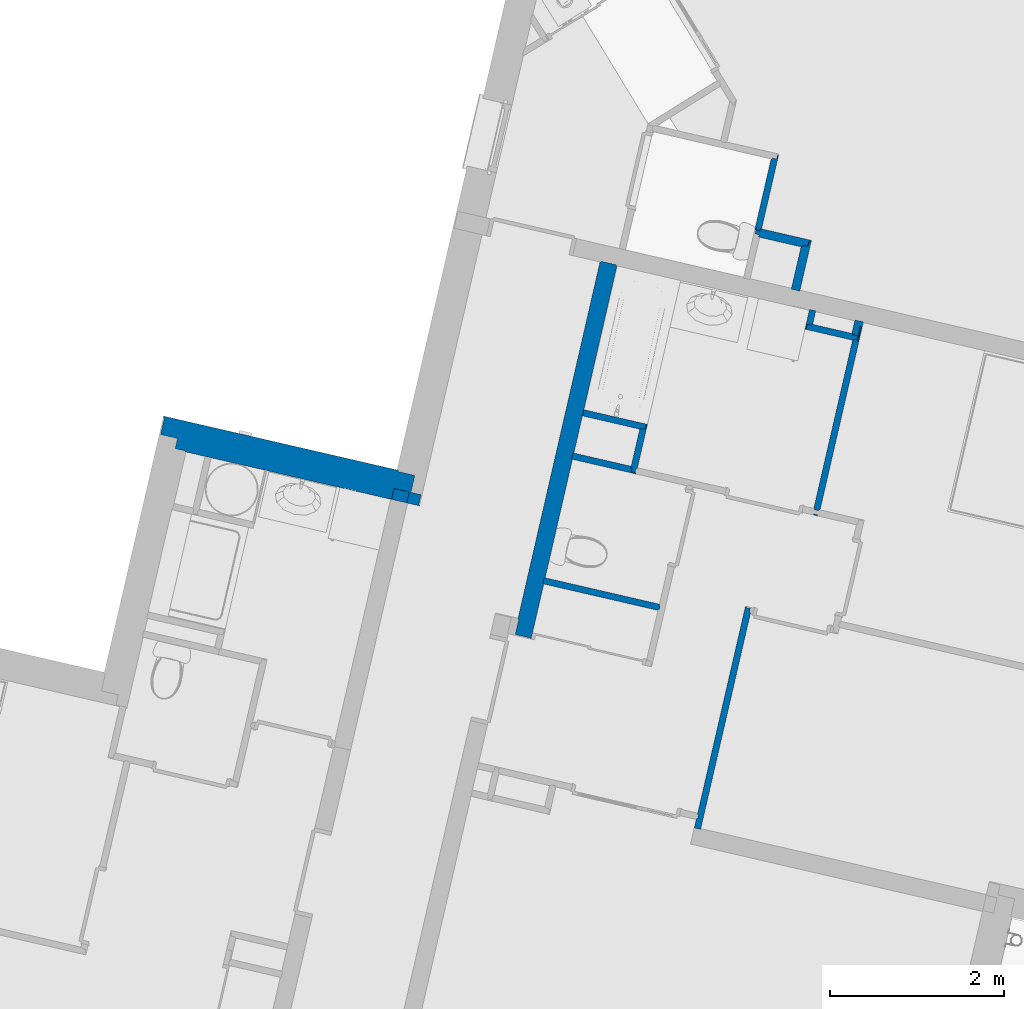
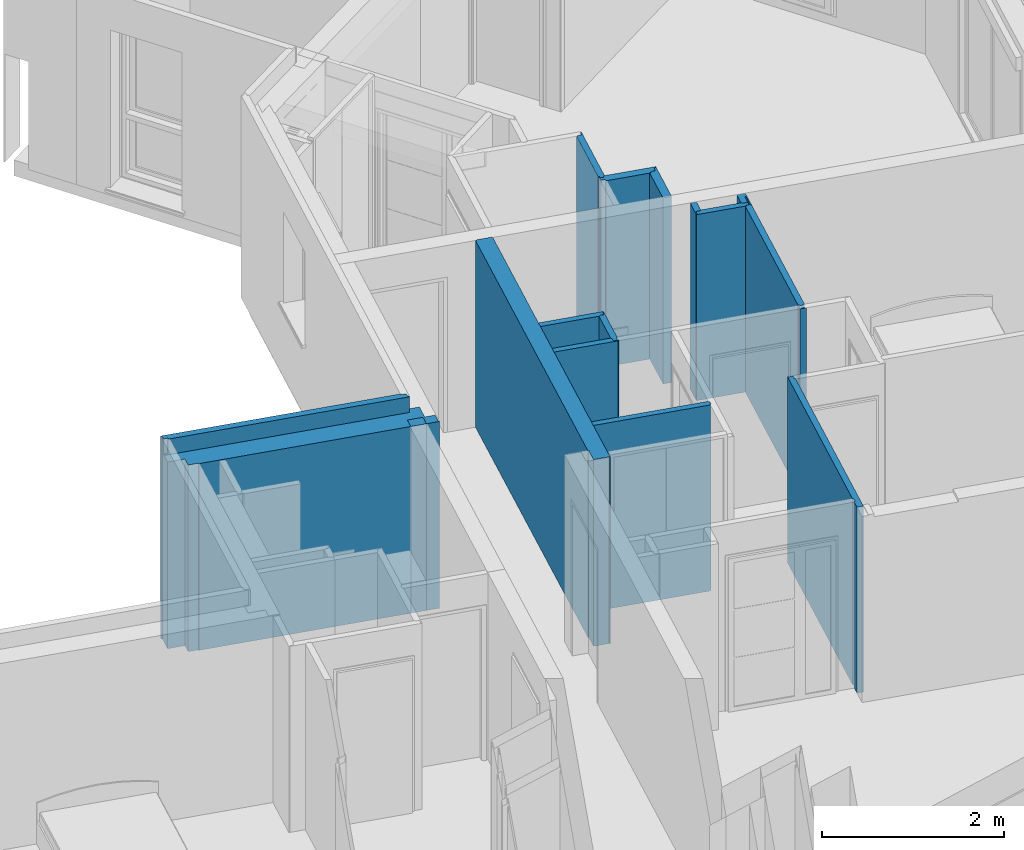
# One storey, part 53 of 90: 15 walls.
"""IFC2X3 building model written with IfcOpenShell, lengths in metres."""

from ifc_helpers import new_model, entity, si_unit, converted_unit, derived_unit, money_unit, direction, frame, origin_with_axes, place, context, subcontext, project, spatial, faceted_brep, material, material_list, type_object, element, save


model = new_model("IFC2X3")

# Units and contexts
model_context = context("Model", 3, precision=1e-05, world=origin_with_axes(), true_north=direction((0.0, 1.0)))
body_context = subcontext(model_context, "Body", "Model", "MODEL_VIEW")
ifc_project = project(units=[si_unit("LENGTHUNIT", "METRE"), si_unit("AREAUNIT", "SQUARE_METRE"), si_unit("VOLUMEUNIT", "CUBIC_METRE"), converted_unit("PLANEANGLEUNIT", "DEGREE", entity("IfcPlaneAngleMeasure", 0.0174532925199), si_unit("PLANEANGLEUNIT", "RADIAN"), dimensions=[0, 0, 0, 0, 0, 0, 0]), si_unit("SOLIDANGLEUNIT", "STERADIAN"), money_unit("EUR"), converted_unit("TIMEUNIT", "Year", entity("IfcTimeMeasure", 31556926.0), si_unit("TIMEUNIT", "SECOND"), dimensions=[0, 0, 1, 0, 0, 0, 0]), si_unit("MASSUNIT", "GRAM", prefix="KILO"), si_unit("THERMODYNAMICTEMPERATUREUNIT", "DEGREE_CELSIUS"), si_unit("LUMINOUSINTENSITYUNIT", "LUMEN"), si_unit("ENERGYUNIT", "JOULE", prefix="MEGA"), derived_unit("THERMALCONDUCTANCEUNIT", [(si_unit("POWERUNIT", "WATT"), 1), (si_unit("LENGTHUNIT", "METRE"), -1), (si_unit("THERMODYNAMICTEMPERATUREUNIT", "KELVIN"), -1)]), derived_unit("SPECIFICHEATCAPACITYUNIT", [(si_unit("ENERGYUNIT", "JOULE"), 1), (si_unit("MASSUNIT", "GRAM", prefix="KILO"), -1), (si_unit("THERMODYNAMICTEMPERATUREUNIT", "KELVIN"), -1)]), derived_unit("MASSDENSITYUNIT", [(si_unit("MASSUNIT", "GRAM", prefix="KILO"), 1), (si_unit("VOLUMEUNIT", "CUBIC_METRE"), -1)])], contexts=[model_context])

# Site, building, storey
site_placement = place(None, origin_with_axes())
site = spatial("IfcSite", under=ifc_project, at=site_placement, Name="Site", CompositionType="ELEMENT")
building_placement = place(site_placement, origin_with_axes())
building = spatial("IfcBuilding", under=site, at=building_placement, Name="Bâtiment", CompositionType="ELEMENT")
storey_placement = place(building_placement, frame((0.0, 0.0, 2.72), z_axis=(0.0, 0.0, 1.0), x_axis=(1.0, 0.0, 0.0)))
storey = spatial("IfcBuildingStorey", under=building, at=storey_placement, Name="R+1", CompositionType="ELEMENT", Elevation=2.72)

# Walls
ifc_material_1 = material(Name="Finition int - Plaque de plâtre")
ifc_material_2 = material(Name="Isolation - Polystyrène extrudé")
ifc_material_3 = material(Name="Bloc ELITHERM")
ifc_material_4 = material(Name="Isolation - Polystyrène expansé")
ifc_material_5 = material(Name="Mortier")
ifc_material_6 = material(Name="Béton cellulaire")
ifc_material_7 = material(Name="Finition ext - Crépis")
ifc_material_list_1 = material_list([ifc_material_1, ifc_material_2, ifc_material_3, ifc_material_4, ifc_material_5, ifc_material_6, ifc_material_7])
wall_type_1 = type_object("IfcWallType", Name="Mur ALKERN + planelle 21 345 x 2720", PredefinedType="USERDEFINED")
wall_1_placement = place(storey_placement, frame((-8.19769074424, 11.8040918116, 0.0), z_axis=(0.0, 0.0, 1.0), x_axis=(-0.974387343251, 0.224876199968, 0.0)))
element("IfcWall", 1, at=wall_1_placement, inside=storey, type_object=wall_type_1, material=ifc_material_list_1, Name="Mue bloc ALKERN isolé", ObjectType="SOLIDWALL", context=body_context, shape_type="Brep", body=[
    faceted_brep([(-0.344999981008, 0.335000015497, 0.0), (2.42531035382, 0.335000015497, 0.0), (2.42531035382, 0.335000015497, 2.51), (-0.344999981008, 0.335000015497, 2.51000000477), (-0.344999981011, 0.34499998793, 0.0), (2.42531035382, 0.34499998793, 0.0), (2.42531035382, 0.34499998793, 2.51), (-0.344999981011, 0.34499998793, 2.51000000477)], [[[0, 1, 2, 3]], [[4, 5, 1, 0]], [[5, 6, 2, 1]], [[3, 2, 6, 7]], [[7, 4, 0, 3]], [[7, 6, 5, 4]]]),
    faceted_brep([(2.54531037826, 0.335000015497, 2.50999999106), (-0.335000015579, 0.335000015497, 2.51), (-0.33500001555, 0.215000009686, 2.51), (2.54531037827, 0.215000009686, 2.50999999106), (2.54531037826, 0.335000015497, 0.0), (-0.335000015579, 0.335000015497, 0.0), (-0.33500001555, 0.215000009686, 0.0), (2.54531037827, 0.215000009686, 0.0)], [[[0, 1, 2, 3]], [[4, 5, 1, 0]], [[5, 6, 2, 1]], [[3, 2, 6, 7]], [[4, 0, 3, 7]], [[7, 6, 5, 4]]]),
    faceted_brep([(-0.215000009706, 0.0829999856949, 2.51), (-0.215000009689, 0.015, 2.51), (2.74531038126, 0.015, 2.50999999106), (2.74531038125, 0.0829999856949, 2.50999999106), (-0.215000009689, 0.015, 0.0), (-0.215000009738, 0.214999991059, 2.51), (-0.215000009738, 0.214999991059, 0.0), (2.74531038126, 0.015, 0.0), (2.74531038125, 0.214999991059, 0.0), (2.74531038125, 0.214999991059, 2.50999999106)], [[[0, 1, 2, 3]], [[4, 1, 0, 5, 6]], [[1, 4, 7, 2]], [[3, 2, 7, 8, 9]], [[5, 0, 3, 9]], [[6, 5, 9, 8]], [[4, 6, 8, 7]]]),
    faceted_brep([(-0.0830000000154, 0.0630000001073, 2.51999998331), (2.69731037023, 0.0630000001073, 2.51999999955), (2.69731037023, 0.0630000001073, 2.72), (-0.0830000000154, 0.0630000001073, 2.72), (-0.0830000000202, 0.083000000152, 2.51999998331), (2.69731037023, 0.083000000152, 2.51999999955), (2.69731037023, 0.083000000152, 2.72), (-0.0830000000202, 0.083000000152, 2.72)], [[[0, 1, 2, 3]], [[4, 5, 1, 0]], [[5, 6, 2, 1]], [[3, 2, 6, 7]], [[7, 4, 0, 3]], [[7, 6, 5, 4]]]),
    faceted_brep([(2.74531038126, 0.015, 2.50999999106), (2.74531038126, 0.015, 2.51999999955), (-0.0830000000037, 0.015, 2.51999998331), (-0.0830000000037, 0.015, 2.51000000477), (2.74531038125, 0.083, 2.51999999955), (2.74531038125, 0.083, 2.50999999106), (-0.0830000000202, 0.083, 2.51999998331), (-0.0830000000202, 0.083, 2.51000000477)], [[[0, 1, 2, 3]], [[4, 1, 0, 5]], [[1, 4, 6, 2]], [[7, 3, 2, 6]], [[5, 0, 3, 7]], [[4, 5, 7, 6]]]),
    faceted_brep([(-0.0630000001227, 0.0629999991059, 2.72), (-0.0630000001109, 0.015, 2.72), (2.74531038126, 0.015, 2.72), (2.74531038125, 0.0629999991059, 2.72), (-0.0630000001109, 0.015, 2.51999999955), (-0.0630000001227, 0.0629999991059, 2.51999999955), (2.74531038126, 0.015, 2.51999999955), (2.74531038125, 0.0629999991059, 2.51999999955)], [[[0, 1, 2, 3]], [[4, 1, 0, 5]], [[1, 4, 6, 2]], [[3, 2, 6, 7]], [[5, 0, 3, 7]], [[4, 5, 7, 6]]]),
    faceted_brep([(2.76031035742, 0.0149999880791, 2.72), (-0.0150000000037, 0.0149999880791, 2.72), (-0.015, 0.0, 2.72), (2.76031035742, 0.0, 2.72), (-0.0150000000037, 0.0149999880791, 0.0), (2.76031035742, 0.0149999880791, 0.0), (-0.015, 0.0, 0.0), (2.76031035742, 0.0, 0.0)], [[[0, 1, 2, 3]], [[4, 1, 0, 5]], [[6, 2, 1, 4]], [[3, 2, 6, 7]], [[7, 5, 0, 3]], [[7, 6, 4, 5]]]),
])
ifc_material_8 = material(Name="Isolation - Laine de roche")
ifc_material_list_2 = material_list([ifc_material_1, ifc_material_8, ifc_material_1])
wall_type_2 = type_object("IfcWallType", Name="3 - Cloison 72mm Placostil 74", PredefinedType="USERDEFINED")
wall_2_placement = place(storey_placement, frame((-3.34154663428, 11.2715143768, 0.0), z_axis=(0.0, 0.0, 1.0), x_axis=(0.224876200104, 0.97438734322, 0.0)))
element("IfcWall", 2, at=wall_2_placement, inside=storey, type_object=wall_type_2, material=ifc_material_list_2, Name="Cloison Placostil 72/48", ObjectType="PARTITIONING", context=body_context, shape_type="Brep", body=[
    faceted_brep([(0.0743317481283, 0.061, 0.0), (2.06347842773, 0.061, 0.0), (2.06347842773, 0.061, 2.5), (0.0743317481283, 0.061, 2.5), (0.0743317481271, 0.074, 0.0), (2.06347842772, 0.0740000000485, 0.0), (2.06347842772, 0.0740000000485, 2.5), (0.0743317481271, 0.074, 2.5)], [[[0, 1, 2, 3]], [[4, 5, 1, 0]], [[5, 6, 2, 1]], [[3, 2, 6, 7]], [[7, 4, 0, 3]], [[7, 6, 5, 4]]]),
    faceted_brep([(0.0, 0.061, 0.0), (0.0, 0.074, 0.0), (0.000331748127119, 0.074, 0.0), (0.000331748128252, 0.061, 0.0), (0.0, 0.061, 2.5), (0.0, 0.074, 2.5), (0.000331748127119, 0.074, 2.5), (0.000331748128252, 0.061, 2.5)], [[[0, 1, 2, 3]], [[4, 5, 1, 0]], [[1, 5, 6, 2]], [[7, 3, 2, 6]], [[4, 0, 3, 7]], [[5, 4, 7, 6]]]),
    faceted_brep([(2.23747842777, 0.0260000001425, 0.0), (2.12447842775, 0.0260000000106, 0.0), (2.07647842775, 0.0260000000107, 0.0), (2.07647842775, 0.0260000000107, 2.5), (2.12447842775, 0.0260000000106, 2.5), (2.23747842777, 0.0260000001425, 2.5), (2.07647842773, 0.061, 0.0), (2.23747842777, 0.013, 0.0), (0.0613317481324, 0.013, 0.0), (0.0613317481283, 0.061, 0.0), (2.07647842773, 0.061, 2.5), (0.0613317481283, 0.061, 2.5), (0.0613317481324, 0.013, 2.5), (2.23747842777, 0.013, 2.5)], [[[0, 1, 2, 3, 4, 5]], [[6, 2, 1, 0, 7, 8, 9]], [[6, 10, 3, 2]], [[4, 3, 10, 11, 12, 13, 5]], [[7, 0, 5, 13]], [[13, 12, 8, 7]], [[11, 9, 8, 12]], [[11, 10, 6, 9]]]),
    faceted_brep([(0.0, 0.013, 0.0), (0.0, 0.061, 0.0), (0.0133317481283, 0.061, 0.0), (0.0133317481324, 0.013, 0.0), (0.0, 0.013, 2.5), (0.0, 0.061, 2.5), (0.0133317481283, 0.061, 2.5), (0.0133317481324, 0.013, 2.5)], [[[0, 1, 2, 3]], [[4, 5, 1, 0]], [[1, 5, 6, 2]], [[7, 3, 2, 6]], [[4, 0, 3, 7]], [[5, 4, 7, 6]]]),
    faceted_brep([(0.0743317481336, 0.0, 0.0), (2.06347842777, 0.0, 0.0), (2.06347842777, 0.0, 2.5), (0.0743317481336, 0.0, 2.5), (0.0743317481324, 0.013, 0.0), (2.06347842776, 0.013, 0.0), (2.06347842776, 0.013, 2.5), (0.0743317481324, 0.013, 2.5)], [[[0, 1, 2, 3]], [[4, 5, 1, 0]], [[5, 6, 2, 1]], [[3, 2, 6, 7]], [[7, 4, 0, 3]], [[7, 6, 5, 4]]]),
    faceted_brep([(0.0, 0.0, 0.0), (0.0, 0.013, 0.0), (0.000331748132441, 0.013, 0.0), (0.000331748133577, 0.0, 0.0), (0.0, 0.0, 2.5), (0.0, 0.013, 2.5), (0.000331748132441, 0.013, 2.5), (0.000331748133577, 0.0, 2.5)], [[[0, 1, 2, 3]], [[4, 5, 1, 0]], [[1, 5, 6, 2]], [[7, 3, 2, 6]], [[4, 0, 3, 7]], [[5, 4, 7, 6]]]),
])
wall_3_placement = place(storey_placement, frame((-3.79903385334, 15.4427060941, 0.0), z_axis=(0.0, 0.0, 1.0), x_axis=(-0.224876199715, -0.97438734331, 0.0)))
element("IfcWall", 3, at=wall_3_placement, inside=storey, type_object=wall_type_2, material=ifc_material_list_2, Name="Cloison Placostil 72/48", ObjectType="PARTITIONING", context=body_context, shape_type="Brep", body=[
    faceted_brep([(0.0129999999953, -0.013, 2.5), (0.884473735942, -0.013, 2.5), (0.884473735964, 0.0, 2.5), (0.013, 0.0, 2.5), (0.0129999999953, -0.013, 0.0), (0.884473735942, -0.013, 0.0), (0.884473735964, 0.0, 0.0), (0.013, 0.0, 0.0)], [[[0, 1, 2, 3]], [[4, 5, 1, 0]], [[5, 6, 2, 1]], [[3, 2, 6, 7]], [[4, 0, 3, 7]], [[7, 6, 5, 4]]]),
    faceted_brep([(0.0609999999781, -0.061, 2.5), (0.910473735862, -0.0610000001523, 2.5), (0.910473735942, -0.013, 2.5), (0.0609999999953, -0.013, 2.5), (0.0609999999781, -0.061, 0.0), (0.910473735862, -0.0610000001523, 0.0), (0.910473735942, -0.013, 0.0), (0.0609999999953, -0.013, 0.0)], [[[0, 1, 2, 3]], [[4, 5, 1, 0]], [[5, 6, 2, 1]], [[3, 2, 6, 7]], [[4, 0, 3, 7]], [[7, 6, 5, 4]]]),
    faceted_brep([(0.0739999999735, -0.074, 2.5), (0.88447373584, -0.0740000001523, 2.5), (0.884473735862, -0.061, 2.5), (0.0739999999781, -0.061, 2.5), (0.0739999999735, -0.074, 0.0), (0.88447373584, -0.0740000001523, 0.0), (0.884473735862, -0.061, 0.0), (0.0739999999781, -0.061, 0.0)], [[[0, 1, 2, 3]], [[4, 5, 1, 0]], [[5, 6, 2, 1]], [[3, 2, 6, 7]], [[4, 0, 3, 7]], [[7, 6, 5, 4]]]),
])
wall_4_placement = place(storey_placement, frame((-4.7413895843, 7.487875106, 0.0), z_axis=(0.0, 0.0, 1.0), x_axis=(0.224876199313, 0.974387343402, 0.0)))
element("IfcWall", 4, at=wall_4_placement, inside=storey, type_object=wall_type_2, material=ifc_material_list_2, Name="Cloison Placostil 72/48", ObjectType="PARTITIONING", context=body_context, shape_type="Brep", body=[
    faceted_brep([(2.80185332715, 0.074, 0.0), (2.80185332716, 0.061, 0.0), (0.341999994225, 0.061, 0.0), (0.341999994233, 0.074, 0.0), (2.80185332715, 0.074, 2.5), (2.80185332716, 0.061, 2.5), (0.341999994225, 0.061, 2.5), (0.341999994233, 0.074, 2.5)], [[[0, 1, 2, 3]], [[1, 0, 4, 5]], [[1, 5, 6, 2]], [[7, 3, 2, 6]], [[4, 0, 3, 7]], [[5, 4, 7, 6]]]),
    faceted_brep([(0.293999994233, 0.074, 0.0), (0.293999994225, 0.061, 0.0), (0.180000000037, 0.061, 0.0), (0.180000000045, 0.074, 0.0), (0.293999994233, 0.074, 2.5), (0.293999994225, 0.061, 2.5), (0.180000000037, 0.061, 2.5), (0.180000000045, 0.074, 2.5)], [[[0, 1, 2, 3]], [[1, 0, 4, 5]], [[1, 5, 6, 2]], [[7, 3, 2, 6]], [[4, 0, 3, 7]], [[5, 4, 7, 6]]]),
    faceted_brep([(2.78885332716, 0.061, 0.0), (2.78885332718, 0.013, 0.0), (0.180000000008, 0.013, 0.0), (0.180000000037, 0.061, 0.0), (2.78885332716, 0.061, 2.5), (2.78885332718, 0.013, 2.5), (0.180000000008, 0.013, 2.5), (0.180000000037, 0.061, 2.5)], [[[0, 1, 2, 3]], [[1, 0, 4, 5]], [[1, 5, 6, 2]], [[7, 3, 2, 6]], [[4, 0, 3, 7]], [[5, 4, 7, 6]]]),
    faceted_brep([(2.74085332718, 0.013, 0.0), (2.74085332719, 0.0, 0.0), (0.18, 0.0, 0.0), (0.180000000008, 0.013, 0.0), (2.74085332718, 0.013, 2.5), (2.74085332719, 0.0, 2.5), (0.18, 0.0, 2.5), (0.180000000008, 0.013, 2.5)], [[[0, 1, 2, 3]], [[1, 0, 4, 5]], [[1, 5, 6, 2]], [[7, 3, 2, 6]], [[4, 0, 3, 7]], [[5, 4, 7, 6]]]),
])
wall_5_placement = place(storey_placement, frame((-6.70201793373, 10.53466343, 0.0), z_axis=(0.0, 0.0, 1.0), x_axis=(0.974387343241, -0.22487620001, 0.0)))
element("IfcWall", 5, at=wall_5_placement, inside=storey, type_object=wall_type_2, material=ifc_material_list_2, Name="Cloison Placostil 72/48", ObjectType="PARTITIONING", context=body_context, shape_type="Brep", body=[
    faceted_brep([(1.55033845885, 0.074, 0.0), (1.55033845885, 0.061, 0.0), (0.189954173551, 0.061, 0.0), (0.189944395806, 0.074, 0.0), (1.55033845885, 0.074, 2.5), (1.55033845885, 0.061, 2.5), (0.189954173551, 0.061, 2.5), (0.189944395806, 0.074, 2.5)], [[[0, 1, 2, 3]], [[1, 0, 4, 5]], [[1, 5, 6, 2]], [[7, 3, 2, 6]], [[4, 0, 3, 7]], [[5, 4, 7, 6]]]),
    faceted_brep([(1.56333845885, 0.061, 0.0), (1.56333845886, 0.013, 0.0), (0.189990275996, 0.013, 0.0), (0.189954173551, 0.061, 0.0), (1.56333845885, 0.061, 2.5), (1.56333845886, 0.013, 2.5), (0.189990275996, 0.013, 2.5), (0.189954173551, 0.061, 2.5)], [[[0, 1, 2, 3]], [[1, 0, 4, 5]], [[1, 5, 6, 2]], [[7, 3, 2, 6]], [[4, 0, 3, 7]], [[5, 4, 7, 6]]]),
    faceted_brep([(1.55033845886, 0.013, 0.0), (1.55033845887, 0.0, 0.0), (0.190000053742, 0.0, 0.0), (0.189990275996, 0.013, 0.0), (1.55033845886, 0.013, 2.5), (1.55033845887, 0.0, 2.5), (0.190000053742, 0.0, 2.5), (0.189990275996, 0.013, 2.5)], [[[0, 1, 2, 3]], [[1, 0, 4, 5]], [[1, 5, 6, 2]], [[7, 3, 2, 6]], [[4, 0, 3, 7]], [[5, 4, 7, 6]]]),
])
ifc_material_9 = material(Name="Finition int - Enduit plâtre")
ifc_material_10 = material(Name="Béton")
ifc_material_list_3 = material_list([ifc_material_9, ifc_material_10, ifc_material_9])
wall_type_3 = type_object("IfcWallType", Name="2 - Murs Béton 18 + Enduit 2 Faces 200", PredefinedType="USERDEFINED")
wall_6_placement = place(storey_placement, frame((-5.85898199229, 14.2001133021, 0.0), z_axis=(0.0, 0.0, 1.0), x_axis=(-0.224143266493, -0.974556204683, 0.0)))
element("IfcWall", 6, at=wall_6_placement, inside=storey, type_object=wall_type_3, material=ifc_material_list_3, Name="M_Ext-008", ObjectType="SOLIDWALL", context=body_context, shape_type="Brep", body=[
    faceted_brep([(0.000142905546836, 0.19, 2.51), (0.000150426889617, 0.2, 2.51), (0.000150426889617, 0.2, 0.0), (0.000142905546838, 0.19, 0.0), (4.41129835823, 0.2, 2.51), (4.41129083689, 0.19, 2.51), (4.41129835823, 0.2, 0.0), (3.76129817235, 0.2, 0.0), (3.76129817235, 0.2, 2.5), (3.68729815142, 0.2, 2.5), (3.68729815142, 0.2, 0.0), (2.2872977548, 0.2, 0.0), (2.2872977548, 0.2, 2.5), (2.21329773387, 0.2, 2.5), (2.21329773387, 0.2, 0.0), (2.21329021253, 0.19, 0.0), (2.21329021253, 0.19, 2.5), (2.28729023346, 0.19, 2.5), (2.28729023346, 0.19, 0.0), (3.68729063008, 0.19, 0.0), (3.68729063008, 0.19, 2.5), (3.76129065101, 0.19, 2.5), (3.76129065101, 0.19, 0.0), (4.41129083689, 0.19, 0.0)], [[[0, 1, 2, 3]], [[4, 1, 0, 5]], [[1, 4, 6, 7, 8, 9, 10, 11, 12, 13, 14, 2]], [[15, 3, 2, 14]], [[5, 0, 3, 15, 16, 17, 18, 19, 20, 21, 22, 23]], [[4, 5, 23, 6]], [[7, 6, 23, 22]], [[7, 22, 21, 8]], [[20, 9, 8, 21]], [[9, 20, 19, 10]], [[11, 10, 19, 18]], [[11, 18, 17, 12]], [[16, 13, 12, 17]], [[13, 16, 15, 14]]]),
    faceted_brep([(0.0, 0.01, 2.51), (0.0, 0.19, 2.51), (-0.00985709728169, 0.19, 2.51000000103), (-0.00999248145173, 0.01, 2.51000000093), (4.40129083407, 0.19, 2.51), (4.40115545, 0.01, 2.51), (4.40129083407, 0.19, 0.0), (-0.00985709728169, 0.19, 0.0), (-0.00999248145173, 0.01, 0.0), (4.40115545, 0.01, 0.0)], [[[0, 1, 2, 3]], [[4, 1, 0, 5]], [[1, 4, 6, 7, 2]], [[8, 3, 2, 7]], [[5, 0, 3, 8, 9]], [[4, 5, 9, 6]], [[9, 8, 7, 6]]]),
    faceted_brep([(0.0, 0.0, 2.51), (7.52137679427e-06, 0.01, 2.51), (7.52137679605e-06, 0.01, 0.0), (0.0, 0.0, 0.0), (4.22115539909, 0.01, 2.51), (4.22114787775, 0.0, 2.51), (4.22115539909, 0.01, 0.0), (4.22114787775, 0.0, 0.0)], [[[0, 1, 2, 3]], [[4, 1, 0, 5]], [[1, 4, 6, 2]], [[7, 3, 2, 6]], [[5, 0, 3, 7]], [[4, 5, 7, 6]]]),
])
wall_type_4 = type_object("IfcWallType", Name="3 - Cloison Gaine Technique 72mm 74", PredefinedType="USERDEFINED")
wall_7_placement = place(storey_placement, frame((-2.87751944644, 13.2821416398, 0.0), z_axis=(0.0, 0.0, 1.0), x_axis=(-0.974387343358, 0.224876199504, 0.0)))
element("IfcWall", 7, at=wall_7_placement, inside=storey, type_object=wall_type_4, material=ifc_material_list_2, Name="Cloison Placostil 72/48", ObjectType="PARTITIONING", context=body_context, shape_type="Brep", body=[
    faceted_brep([(0.637000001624, 0.0, 2.5), (0.061, 0.0, 2.5), (0.060999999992, -0.013, 2.5), (0.637000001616, -0.013, 2.5), (0.637000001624, 0.0, 0.0), (0.061, 0.0, 0.0), (0.060999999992, -0.013, 0.0), (0.637000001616, -0.013, 0.0)], [[[0, 1, 2, 3]], [[4, 5, 1, 0]], [[5, 6, 2, 1]], [[3, 2, 6, 7]], [[4, 0, 3, 7]], [[7, 6, 5, 4]]]),
    faceted_brep([(0.0260000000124, -0.061, 2.5), (0.62400000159, -0.061, 2.5), (0.624000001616, -0.013, 2.5), (0.0260000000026, -0.013, 2.5), (0.0260000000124, -0.061, 0.0), (0.62400000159, -0.061, 0.0), (0.624000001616, -0.013, 0.0), (0.0260000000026, -0.013, 0.0)], [[[0, 1, 2, 3]], [[4, 5, 1, 0]], [[6, 2, 1, 5]], [[3, 2, 6, 7]], [[7, 4, 0, 3]], [[7, 6, 5, 4]]]),
    faceted_brep([(0.0870000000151, -0.074, 2.5), (0.576000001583, -0.074, 2.5), (0.57600000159, -0.061, 2.5), (0.0870000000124, -0.061, 2.5), (0.0870000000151, -0.074, 0.0), (0.576000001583, -0.074, 0.0), (0.57600000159, -0.061, 0.0), (0.0870000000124, -0.061, 0.0)], [[[0, 1, 2, 3]], [[4, 5, 1, 0]], [[6, 2, 1, 5]], [[3, 2, 6, 7]], [[7, 4, 0, 3]], [[7, 6, 5, 4]]]),
])
wall_8_placement = place(storey_placement, frame((-6.37163066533, 11.9711596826, 0.0), z_axis=(0.0, 0.0, 1.0), x_axis=(0.974387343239, -0.224876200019, 0.0)))
element("IfcWall", 8, at=wall_8_placement, inside=storey, type_object=wall_type_4, material=ifc_material_list_2, Name="Cloison Placostil 72/48", ObjectType="PARTITIONING", context=body_context, shape_type="Brep", body=[
    faceted_brep([(0.877447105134, 0.074, 0.0), (0.877447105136, 0.061, 0.0), (0.189954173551, 0.061, 0.0), (0.189944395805, 0.074, 0.0), (0.877447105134, 0.074, 2.5), (0.877447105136, 0.061, 2.5), (0.189954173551, 0.061, 2.5), (0.189944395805, 0.074, 2.5)], [[[0, 1, 2, 3]], [[1, 0, 4, 5]], [[1, 5, 6, 2]], [[7, 3, 2, 6]], [[4, 0, 3, 7]], [[5, 4, 7, 6]]]),
    faceted_brep([(0.890447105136, 0.061, 0.0), (0.890447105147, 0.013, 0.0), (0.189990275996, 0.013, 0.0), (0.189954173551, 0.061, 0.0), (0.890447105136, 0.061, 2.5), (0.890447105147, 0.013, 2.5), (0.189990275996, 0.013, 2.5), (0.189954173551, 0.061, 2.5)], [[[0, 1, 2, 3]], [[1, 0, 4, 5]], [[1, 5, 6, 2]], [[7, 3, 2, 6]], [[4, 0, 3, 7]], [[5, 4, 7, 6]]]),
    faceted_brep([(0.189990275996, 0.013, 0.0), (0.938447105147, 0.013, 0.0), (0.938447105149, 0.0, 0.0), (0.190000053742, 0.0, 0.0), (0.189990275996, 0.013, 2.5), (0.938447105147, 0.013, 2.5), (0.938447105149, 0.0, 2.5), (0.190000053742, 0.0, 2.5)], [[[0, 1, 2, 3]], [[4, 5, 1, 0]], [[6, 2, 1, 5]], [[3, 2, 6, 7]], [[7, 4, 0, 3]], [[7, 6, 5, 4]]]),
])
wall_9_placement = place(storey_placement, frame((-5.32915817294, 12.2572055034, 0.0), z_axis=(0.0, 0.0, 1.0), x_axis=(-0.224876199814, -0.974387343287, 0.0)))
element("IfcWall", 9, at=wall_9_placement, inside=storey, type_object=wall_type_4, material=ifc_material_list_2, Name="Cloison Placostil 72/48", ObjectType="PARTITIONING", context=body_context, shape_type="Brep", body=[
    faceted_brep([(0.51314668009, 0.0, 0.0), (0.50014668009, 0.0, 0.0), (0.50014668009, 0.0, 2.5), (0.51314668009, 0.0, 2.5), (0.513146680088, -0.013, 0.0), (0.500146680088, -0.013, 0.0), (0.500146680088, -0.013, 2.5), (0.513146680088, -0.013, 2.5)], [[[0, 1, 2, 3]], [[4, 5, 1, 0]], [[5, 6, 2, 1]], [[3, 2, 6, 7]], [[0, 3, 7, 4]], [[7, 6, 5, 4]]]),
    faceted_brep([(-0.0609999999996, -0.013, 2.5), (0.452146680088, -0.013, 2.5), (0.45214668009, 0.0, 2.5), (-0.061, 0.0, 2.5), (-0.0609999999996, -0.013, 0.0), (0.452146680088, -0.013, 0.0), (0.45214668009, 0.0, 0.0), (-0.061, 0.0, 0.0)], [[[0, 1, 2, 3]], [[4, 5, 1, 0]], [[5, 6, 2, 1]], [[3, 2, 6, 7]], [[7, 4, 0, 3]], [[7, 6, 5, 4]]]),
    faceted_brep([(-0.0129999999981, -0.061, 2.5), (0.500146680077, -0.061, 2.5), (0.500146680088, -0.013, 2.5), (-0.0129999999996, -0.013, 2.5), (-0.0129999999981, -0.061, 0.0), (0.500146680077, -0.061, 0.0), (0.500146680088, -0.013, 0.0), (-0.0129999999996, -0.013, 0.0)], [[[0, 1, 2, 3]], [[4, 5, 1, 0]], [[6, 2, 1, 5]], [[3, 2, 6, 7]], [[7, 4, 0, 3]], [[7, 6, 5, 4]]]),
    faceted_brep([(0.452146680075, -0.074, 2.5), (0.452146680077, -0.061, 2.5), (0.0, -0.061, 2.5), (0.0, -0.074, 2.5), (0.452146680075, -0.074, 0.0), (0.452146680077, -0.061, 0.0), (0.0, -0.061, 0.0), (0.0, -0.074, 0.0)], [[[0, 1, 2, 3]], [[1, 0, 4, 5]], [[1, 5, 6, 2]], [[7, 3, 2, 6]], [[4, 0, 3, 7]], [[5, 4, 7, 6]]]),
])
wall_10_placement = place(storey_placement, frame((-3.49820418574, 13.4253877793, 0.0), z_axis=(0.0, 0.0, 1.0), x_axis=(0.224876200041, 0.974387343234, 0.0)))
element("IfcWall", 10, at=wall_10_placement, inside=storey, type_object=wall_type_4, material=ifc_material_list_2, Name="Cloison Placostil 72/48", ObjectType="PARTITIONING", context=body_context, shape_type="Brep", body=[
    faceted_brep([(0.234000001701, -0.013, 2.5), (0.2340000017, 0.0, 2.5), (0.013, 0.0, 2.5), (0.0130000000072, -0.013, 2.5), (0.234000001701, -0.013, 0.0), (0.2340000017, 0.0, 0.0), (0.013, 0.0, 0.0), (0.0130000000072, -0.013, 0.0)], [[[0, 1, 2, 3]], [[1, 0, 4, 5]], [[1, 5, 6, 2]], [[7, 3, 2, 6]], [[4, 0, 3, 7]], [[5, 4, 7, 6]]]),
    faceted_brep([(0.234000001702, -0.061, 2.5), (0.234000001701, -0.013, 2.5), (0.0610000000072, -0.013, 2.5), (0.0610000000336, -0.061, 2.5), (0.234000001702, -0.061, 0.0), (0.234000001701, -0.013, 0.0), (0.0610000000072, -0.013, 0.0), (0.0610000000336, -0.061, 0.0)], [[[0, 1, 2, 3]], [[1, 0, 4, 5]], [[1, 5, 6, 2]], [[7, 3, 2, 6]], [[4, 0, 3, 7]], [[5, 4, 7, 6]]]),
    faceted_brep([(0.234000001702, -0.074, 2.5), (0.234000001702, -0.061, 2.5), (0.0740000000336, -0.061, 2.5), (0.0740000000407, -0.074, 2.5), (0.234000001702, -0.074, 0.0), (0.234000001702, -0.061, 0.0), (0.0740000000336, -0.061, 0.0), (0.0740000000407, -0.074, 0.0)], [[[0, 1, 2, 3]], [[1, 0, 4, 5]], [[1, 5, 6, 2]], [[7, 3, 2, 6]], [[4, 0, 3, 7]], [[5, 4, 7, 6]]]),
])
wall_11_placement = place(storey_placement, frame((-6.061734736, 12.4262748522, 0.0), z_axis=(0.0, 0.0, 1.0), x_axis=(0.974387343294, -0.224876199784, 0.0)))
element("IfcWall", 11, at=wall_11_placement, inside=storey, type_object=wall_type_4, material=ifc_material_list_2, Name="Cloison Placostil 72/48", ObjectType="PARTITIONING", context=body_context, shape_type="Brep", body=[
    faceted_brep([(0.751833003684, 0.074, 0.0), (0.751833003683, 0.061, 0.0), (0.0, 0.061, 0.0), (0.0, 0.074, 0.0), (0.751833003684, 0.074, 2.5), (0.751833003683, 0.061, 2.5), (0.0, 0.061, 2.5), (0.0, 0.074, 2.5)], [[[0, 1, 2, 3]], [[1, 0, 4, 5]], [[1, 5, 6, 2]], [[7, 3, 2, 6]], [[4, 0, 3, 7]], [[5, 4, 7, 6]]]),
    faceted_brep([(0.738833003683, 0.061, 0.0), (0.738833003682, 0.013, 0.0), (0.0, 0.013, 0.0), (0.0, 0.061, 0.0), (0.738833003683, 0.061, 2.5), (0.738833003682, 0.013, 2.5), (0.0, 0.013, 2.5), (0.0, 0.061, 2.5)], [[[0, 1, 2, 3]], [[1, 0, 4, 5]], [[1, 5, 6, 2]], [[7, 3, 2, 6]], [[4, 0, 3, 7]], [[5, 4, 7, 6]]]),
    faceted_brep([(0.690833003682, 0.013, 0.0), (0.690833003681, 0.0, 0.0), (0.0, 0.0, 0.0), (0.0, 0.013, 0.0), (0.690833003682, 0.013, 2.5), (0.690833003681, 0.0, 2.5), (0.0, 0.0, 2.5), (0.0, 0.013, 2.5)], [[[0, 1, 2, 3]], [[1, 0, 4, 5]], [[1, 5, 6, 2]], [[7, 3, 2, 6]], [[4, 0, 3, 7]], [[5, 4, 7, 6]]]),
])
wall_type_5 = type_object("IfcWallType", Name="Béton 180", PredefinedType="USERDEFINED")
wall_12_placement = place(storey_placement, frame((-8.26065722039, 11.464555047, 0.0), z_axis=(0.0, 0.0, 1.0), x_axis=(0.224876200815, 0.974387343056, 0.0)))
element("IfcWall", 12, at=wall_12_placement, inside=storey, type_object=wall_type_5, material=ifc_material_10, Name="M_Ext-008", ObjectType="SOLIDWALL", context=body_context, shape_type="Brep", body=[
    faceted_brep([(0.0, 0.0, 2.51), (0.0, -0.18, 2.51), (0.129999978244, -0.18, 2.51), (0.129999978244, 0.0, 2.51), (0.0, 0.0, 0.0), (0.0, -0.18, 0.0), (0.129999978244, -0.18, 0.0), (0.129999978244, 0.0, 0.0)], [[[0, 1, 2, 3]], [[4, 5, 1, 0]], [[1, 5, 6, 2]], [[7, 3, 2, 6]], [[4, 0, 3, 7]], [[5, 4, 7, 6]]]),
])
ifc_material_list_4 = material_list([ifc_material_1, ifc_material_1, ifc_material_8, ifc_material_1, ifc_material_1])
wall_type_6 = type_object("IfcWallType", Name="3 - Cloison Gaine Technique 98mm 100", PredefinedType="USERDEFINED")
wall_13_placement = place(storey_placement, frame((-3.99793094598, 14.5808860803, 0.0), z_axis=(0.0, 0.0, 1.0), x_axis=(0.974387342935, -0.224876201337, 0.0)))
element("IfcWall", 13, at=wall_13_placement, inside=storey, type_object=wall_type_6, material=ifc_material_list_4, Name="Cloison 98 isolée", ObjectType="PARTITIONING", context=body_context, shape_type="Brep", body=[
    faceted_brep([(-0.0739999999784, -0.013, 2.5), (-0.0609999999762, -0.013, 2.5), (-0.0609999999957, 0.0, 2.5), (-0.074, 0.0, 2.5), (-0.0739999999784, -0.013, 0.0), (-0.0609999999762, -0.013, 0.0), (-0.0609999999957, 0.0, 0.0), (-0.074, 0.0, 0.0)], [[[0, 1, 2, 3]], [[4, 5, 1, 0]], [[5, 6, 2, 1]], [[3, 2, 6, 7]], [[7, 4, 0, 3]], [[7, 6, 5, 4]]]),
    faceted_brep([(0.589504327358, 0.0, 0.0), (-0.0129999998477, 0.0, 0.0), (-0.0129999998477, 0.0, 2.5), (0.589504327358, 0.0, 2.5), (0.589504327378, -0.013, 0.0), (-0.0129999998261, -0.013, 0.0), (-0.0129999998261, -0.013, 2.5), (0.589504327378, -0.013, 2.5)], [[[0, 1, 2, 3]], [[4, 5, 1, 0]], [[5, 6, 2, 1]], [[3, 2, 6, 7]], [[0, 3, 7, 4]], [[7, 6, 5, 4]]]),
    faceted_brep([(-0.0739999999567, -0.026, 2.5), (-0.0609999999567, -0.026, 2.5), (-0.0609999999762, -0.013, 2.5), (-0.0739999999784, -0.013, 2.5), (-0.0739999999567, -0.026, 0.0), (-0.0609999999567, -0.026, 0.0), (-0.0609999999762, -0.013, 0.0), (-0.0739999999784, -0.013, 0.0)], [[[0, 1, 2, 3]], [[4, 5, 1, 0]], [[5, 6, 2, 1]], [[3, 2, 6, 7]], [[7, 4, 0, 3]], [[7, 6, 5, 4]]]),
    faceted_brep([(0.576504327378, -0.013, 0.0), (-0.0129999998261, -0.013, 0.0), (-0.0129999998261, -0.013, 2.5), (0.576504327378, -0.013, 2.5), (0.576504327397, -0.026, 0.0), (-0.0129999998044, -0.026, 0.0), (-0.0129999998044, -0.026, 2.5), (0.576504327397, -0.026, 2.5)], [[[0, 1, 2, 3]], [[4, 5, 1, 0]], [[5, 6, 2, 1]], [[3, 2, 6, 7]], [[0, 3, 7, 4]], [[7, 6, 5, 4]]]),
    faceted_brep([(-0.0609999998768, -0.074, 2.5), (0.56350432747, -0.074, 2.5), (0.563504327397, -0.026, 2.5), (-0.0609999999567, -0.026, 2.5), (-0.0609999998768, -0.074, 0.0), (0.56350432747, -0.074, 0.0), (0.563504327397, -0.026, 0.0), (-0.0609999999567, -0.026, 0.0)], [[[0, 1, 2, 3]], [[4, 5, 1, 0]], [[6, 2, 1, 5]], [[3, 2, 6, 7]], [[7, 4, 0, 3]], [[7, 6, 5, 4]]]),
    faceted_brep([(0.51550432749, -0.087, 2.5), (0.51550432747, -0.074, 2.5), (-0.0129999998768, -0.074, 2.5), (-0.0129999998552, -0.087, 2.5), (0.51550432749, -0.087, 0.0), (0.51550432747, -0.074, 0.0), (-0.0129999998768, -0.074, 0.0), (-0.0129999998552, -0.087, 0.0)], [[[0, 1, 2, 3]], [[1, 0, 4, 5]], [[1, 5, 6, 2]], [[7, 3, 2, 6]], [[4, 0, 3, 7]], [[5, 4, 7, 6]]]),
    faceted_brep([(0.50250432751, -0.1, 2.5), (0.50250432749, -0.087, 2.5), (-0.0129999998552, -0.087, 2.5), (-0.0129999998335, -0.1, 2.5), (0.50250432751, -0.1, 0.0), (0.50250432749, -0.087, 0.0), (-0.0129999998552, -0.087, 0.0), (-0.0129999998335, -0.1, 0.0)], [[[0, 1, 2, 3]], [[1, 0, 4, 5]], [[1, 5, 6, 2]], [[7, 3, 2, 6]], [[4, 0, 3, 7]], [[5, 4, 7, 6]]]),
])
wall_14_placement = place(storey_placement, frame((-2.87751944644, 13.2821416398, 0.0), z_axis=(0.0, 0.0, 1.0), x_axis=(0.224876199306, 0.974387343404, 0.0)))
element("IfcWall", 14, at=wall_14_placement, inside=storey, type_object=wall_type_6, material=ifc_material_list_4, Name="Cloison 98 isolée", ObjectType="PARTITIONING", context=body_context, shape_type="Brep", body=[
    faceted_brep([(0.0740000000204, 0.1, 0.0), (0.23400000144, 0.1, 0.0), (0.234000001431, 0.087, 0.0), (0.0740000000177, 0.087, 0.0), (0.0740000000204, 0.1, 2.5), (0.23400000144, 0.1, 2.5), (0.234000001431, 0.087, 2.5), (0.0740000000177, 0.087, 2.5)], [[[0, 1, 2, 3]], [[4, 5, 1, 0]], [[6, 2, 1, 5]], [[3, 2, 6, 7]], [[7, 4, 0, 3]], [[7, 6, 5, 4]]]),
    faceted_brep([(0.0610000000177, 0.087, 0.0), (0.234000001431, 0.087, 0.0), (0.234000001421, 0.074, 0.0), (0.0610000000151, 0.074, 0.0), (0.0610000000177, 0.087, 2.5), (0.234000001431, 0.087, 2.5), (0.234000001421, 0.074, 2.5), (0.0610000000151, 0.074, 2.5)], [[[0, 1, 2, 3]], [[4, 5, 1, 0]], [[6, 2, 1, 5]], [[3, 2, 6, 7]], [[7, 4, 0, 3]], [[7, 6, 5, 4]]]),
    faceted_brep([(0.0610000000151, 0.074, 0.0), (0.234000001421, 0.074, 0.0), (0.234000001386, 0.026, 0.0), (0.0610000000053, 0.026, 0.0), (0.0610000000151, 0.074, 2.5), (0.234000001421, 0.074, 2.5), (0.234000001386, 0.026, 2.5), (0.0610000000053, 0.026, 2.5)], [[[0, 1, 2, 3]], [[4, 5, 1, 0]], [[6, 2, 1, 5]], [[3, 2, 6, 7]], [[7, 4, 0, 3]], [[7, 6, 5, 4]]]),
    faceted_brep([(0.234000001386, 0.026, 2.5), (0.174000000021, 0.026, 2.5), (0.174000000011, 0.0129999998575, 2.5), (0.234000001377, 0.013, 2.5), (0.234000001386, 0.026, 0.0), (0.174000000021, 0.026, 0.0), (0.174000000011, 0.0129999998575, 0.0), (0.234000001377, 0.013, 0.0)], [[[0, 1, 2, 3]], [[4, 5, 1, 0]], [[5, 6, 2, 1]], [[3, 2, 6, 7]], [[3, 7, 4, 0]], [[7, 6, 5, 4]]]),
    faceted_brep([(0.0, 0.013, 0.0), (0.234000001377, 0.013, 0.0), (0.234000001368, 0.0, 0.0), (0.0, 0.0, 0.0), (0.0, 0.013, 2.5), (0.234000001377, 0.013, 2.5), (0.234000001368, 0.0, 2.5), (0.0, 0.0, 2.5)], [[[0, 1, 2, 3]], [[4, 5, 1, 0]], [[6, 2, 1, 5]], [[3, 2, 6, 7]], [[7, 4, 0, 3]], [[7, 6, 5, 4]]]),
])
wall_15_placement = place(storey_placement, frame((-3.4235253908, 14.4483205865, 0.0), z_axis=(0.0, 0.0, 1.0), x_axis=(-0.224876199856, -0.974387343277, 0.0)))
element("IfcWall", 15, at=wall_15_placement, inside=storey, type_object=wall_type_6, material=ifc_material_list_4, Name="Cloison 98 isolée", ObjectType="PARTITIONING", context=body_context, shape_type="Brep", body=[
    faceted_brep([(0.0129999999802, -0.013, 2.5), (0.599999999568, -0.013, 2.5), (0.599999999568, 0.0, 2.5), (0.013, 0.0, 2.5), (0.0129999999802, -0.013, 0.0), (0.599999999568, -0.013, 0.0), (0.599999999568, 0.0, 0.0), (0.013, 0.0, 0.0)], [[[0, 1, 2, 3]], [[4, 5, 1, 0]], [[2, 1, 5, 6]], [[3, 2, 6, 7]], [[4, 0, 3, 7]], [[7, 6, 5, 4]]]),
    faceted_brep([(0.0259999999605, -0.026, 2.5), (0.599999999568, -0.026, 2.5), (0.599999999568, -0.013, 2.5), (0.0259999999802, -0.013, 2.5), (0.0259999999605, -0.026, 0.0), (0.599999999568, -0.026, 0.0), (0.599999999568, -0.013, 0.0), (0.0259999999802, -0.013, 0.0)], [[[0, 1, 2, 3]], [[4, 5, 1, 0]], [[2, 1, 5, 6]], [[3, 2, 6, 7]], [[4, 0, 3, 7]], [[7, 6, 5, 4]]]),
    faceted_brep([(0.0739999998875, -0.074, 2.5), (0.599999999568, -0.074, 2.5), (0.599999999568, -0.026, 2.5), (0.0739999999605, -0.026, 2.5), (0.0739999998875, -0.074, 0.0), (0.599999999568, -0.074, 0.0), (0.599999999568, -0.026, 0.0), (0.0739999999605, -0.026, 0.0)], [[[0, 1, 2, 3]], [[4, 5, 1, 0]], [[2, 1, 5, 6]], [[3, 2, 6, 7]], [[4, 0, 3, 7]], [[7, 6, 5, 4]]]),
    faceted_brep([(0.0869999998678, -0.087, 2.5), (0.599999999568, -0.087, 2.5), (0.599999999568, -0.074, 2.5), (0.0869999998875, -0.074, 2.5), (0.0869999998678, -0.087, 0.0), (0.599999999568, -0.087, 0.0), (0.599999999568, -0.074, 0.0), (0.0869999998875, -0.074, 0.0)], [[[0, 1, 2, 3]], [[4, 5, 1, 0]], [[2, 1, 5, 6]], [[3, 2, 6, 7]], [[4, 0, 3, 7]], [[7, 6, 5, 4]]]),
    faceted_brep([(0.099999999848, -0.1, 2.5), (0.599999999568, -0.1, 2.5), (0.599999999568, -0.087, 2.5), (0.0999999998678, -0.087, 2.5), (0.099999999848, -0.1, 0.0), (0.599999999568, -0.1, 0.0), (0.599999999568, -0.087, 0.0), (0.0999999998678, -0.087, 0.0)], [[[0, 1, 2, 3]], [[4, 5, 1, 0]], [[2, 1, 5, 6]], [[3, 2, 6, 7]], [[4, 0, 3, 7]], [[7, 6, 5, 4]]]),
])

save(model, "model.ifc")
